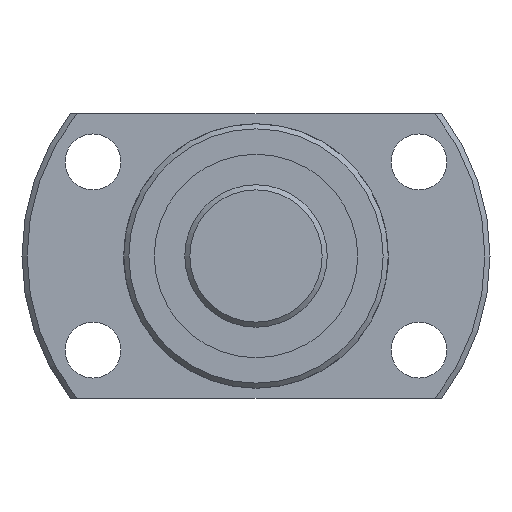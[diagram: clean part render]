
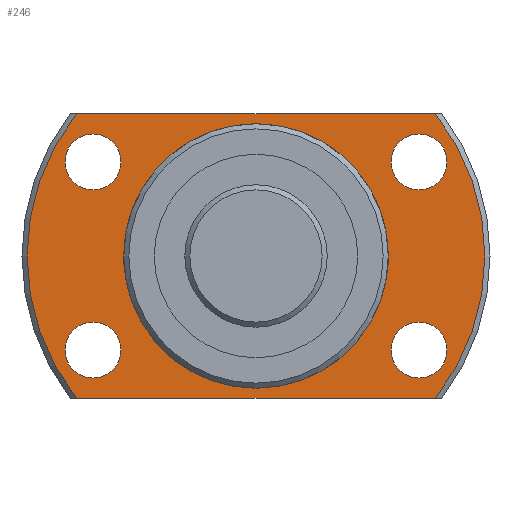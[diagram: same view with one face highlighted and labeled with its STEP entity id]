
A CAD part, left-side view. The second image highlights one B-rep face of the part: STEP entity #246.
In plain terms, the highlighted planar face has unit normal (-1, 0, 0).
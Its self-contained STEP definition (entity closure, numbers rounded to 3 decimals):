
#246 = ADVANCED_FACE( '', ( #440, #441, #442, #443, #444, #445 ), #446, .F. );
#440 = FACE_OUTER_BOUND( '', #639, .T. );
#441 = FACE_BOUND( '', #640, .T. );
#442 = FACE_BOUND( '', #641, .T. );
#443 = FACE_BOUND( '', #642, .T. );
#444 = FACE_BOUND( '', #643, .T. );
#445 = FACE_BOUND( '', #644, .T. );
#446 = PLANE( '', #645 );
#639 = EDGE_LOOP( '', ( #1180, #1181, #1182, #1183 ) );
#640 = EDGE_LOOP( '', ( #1184 ) );
#641 = EDGE_LOOP( '', ( #1185 ) );
#642 = EDGE_LOOP( '', ( #1186 ) );
#643 = EDGE_LOOP( '', ( #1187 ) );
#644 = EDGE_LOOP( '', ( #1188 ) );
#645 = AXIS2_PLACEMENT_3D( '', #1189, #1190, #1191 );
#1180 = ORIENTED_EDGE( '', *, *, #1233, .F. );
#1181 = ORIENTED_EDGE( '', *, *, #1296, .T. );
#1182 = ORIENTED_EDGE( '', *, *, #1307, .F. );
#1183 = ORIENTED_EDGE( '', *, *, #1227, .T. );
#1184 = ORIENTED_EDGE( '', *, *, #1271, .T. );
#1185 = ORIENTED_EDGE( '', *, *, #1273, .T. );
#1186 = ORIENTED_EDGE( '', *, *, #1275, .T. );
#1187 = ORIENTED_EDGE( '', *, *, #1277, .T. );
#1188 = ORIENTED_EDGE( '', *, *, #1308, .T. );
#1189 = CARTESIAN_POINT( '', ( 19., 12.8, 0. ) );
#1190 = DIRECTION( '', ( 1., 0., 0. ) );
#1191 = DIRECTION( '', ( 0., 0., -1. ) );
#1227 = EDGE_CURVE( '', #1411, #1409, #1412, .T. );
#1233 = EDGE_CURVE( '', #1422, #1409, #1423, .T. );
#1271 = EDGE_CURVE( '', #1493, #1493, #1494, .T. );
#1273 = EDGE_CURVE( '', #1497, #1497, #1498, .T. );
#1275 = EDGE_CURVE( '', #1501, #1501, #1502, .T. );
#1277 = EDGE_CURVE( '', #1505, #1505, #1506, .T. );
#1296 = EDGE_CURVE( '', #1422, #1536, #1538, .T. );
#1307 = EDGE_CURVE( '', #1411, #1536, #1553, .T. );
#1308 = EDGE_CURVE( '', #1554, #1554, #1555, .T. );
#1409 = VERTEX_POINT( '', #1692 );
#1411 = VERTEX_POINT( '', #1697 );
#1412 = LINE( '', #1698, #1699 );
#1422 = VERTEX_POINT( '', #1720 );
#1423 = CIRCLE( '', #1721, 22.5 );
#1493 = VERTEX_POINT( '', #1854 );
#1494 = CIRCLE( '', #1855, 2.75 );
#1497 = VERTEX_POINT( '', #1858 );
#1498 = CIRCLE( '', #1859, 2.75 );
#1501 = VERTEX_POINT( '', #1862 );
#1502 = CIRCLE( '', #1863, 2.75 );
#1505 = VERTEX_POINT( '', #1866 );
#1506 = CIRCLE( '', #1867, 2.75 );
#1536 = VERTEX_POINT( '', #1906 );
#1538 = LINE( '', #1911, #1912 );
#1553 = CIRCLE( '', #1935, 22.5 );
#1554 = VERTEX_POINT( '', #1936 );
#1555 = CIRCLE( '', #1937, 12.8 );
#1692 = CARTESIAN_POINT( '', ( 19., 17.614, 14. ) );
#1697 = CARTESIAN_POINT( '', ( 19., -17.614, 14. ) );
#1698 = CARTESIAN_POINT( '', ( 19., 12.8, 14. ) );
#1699 = VECTOR( '', #2108, 1000. );
#1720 = CARTESIAN_POINT( '', ( 19., 17.614, -14. ) );
#1721 = AXIS2_PLACEMENT_3D( '', #2111, #2112, #2113 );
#1854 = CARTESIAN_POINT( '', ( 19., -16.021, -12. ) );
#1855 = AXIS2_PLACEMENT_3D( '', #2176, #2177, #2178 );
#1858 = CARTESIAN_POINT( '', ( 19., -16.021, 6.5 ) );
#1859 = AXIS2_PLACEMENT_3D( '', #2182, #2183, #2184 );
#1862 = CARTESIAN_POINT( '', ( 19., 16.021, -12. ) );
#1863 = AXIS2_PLACEMENT_3D( '', #2188, #2189, #2190 );
#1866 = CARTESIAN_POINT( '', ( 19., 16.021, 6.5 ) );
#1867 = AXIS2_PLACEMENT_3D( '', #2194, #2195, #2196 );
#1906 = CARTESIAN_POINT( '', ( 19., -17.614, -14. ) );
#1911 = CARTESIAN_POINT( '', ( 19., 12.8, -14. ) );
#1912 = VECTOR( '', #2230, 1000. );
#1935 = AXIS2_PLACEMENT_3D( '', #2251, #2252, #2253 );
#1936 = CARTESIAN_POINT( '', ( 19., 0., -12.8 ) );
#1937 = AXIS2_PLACEMENT_3D( '', #2254, #2255, #2256 );
#2108 = DIRECTION( '', ( 0., 1., 0. ) );
#2111 = CARTESIAN_POINT( '', ( 19., 0., 0. ) );
#2112 = DIRECTION( '', ( 1., 0., 0. ) );
#2113 = DIRECTION( '', ( 0., 0., -1. ) );
#2176 = CARTESIAN_POINT( '', ( 19., -16.021, -9.25 ) );
#2177 = DIRECTION( '', ( 1., 0., 0. ) );
#2178 = DIRECTION( '', ( 0., 0., -1. ) );
#2182 = CARTESIAN_POINT( '', ( 19., -16.021, 9.25 ) );
#2183 = DIRECTION( '', ( 1., 0., 0. ) );
#2184 = DIRECTION( '', ( 0., 0., -1. ) );
#2188 = CARTESIAN_POINT( '', ( 19., 16.021, -9.25 ) );
#2189 = DIRECTION( '', ( 1., 0., 0. ) );
#2190 = DIRECTION( '', ( 0., 0., -1. ) );
#2194 = CARTESIAN_POINT( '', ( 19., 16.021, 9.25 ) );
#2195 = DIRECTION( '', ( 1., 0., 0. ) );
#2196 = DIRECTION( '', ( 0., 0., -1. ) );
#2230 = DIRECTION( '', ( 0., -1., 0. ) );
#2251 = CARTESIAN_POINT( '', ( 19., 0., 0. ) );
#2252 = DIRECTION( '', ( 1., 0., 0. ) );
#2253 = DIRECTION( '', ( 0., 0., -1. ) );
#2254 = CARTESIAN_POINT( '', ( 19., 0., 0. ) );
#2255 = DIRECTION( '', ( 1., 0., 0. ) );
#2256 = DIRECTION( '', ( 0., 0., -1. ) );
